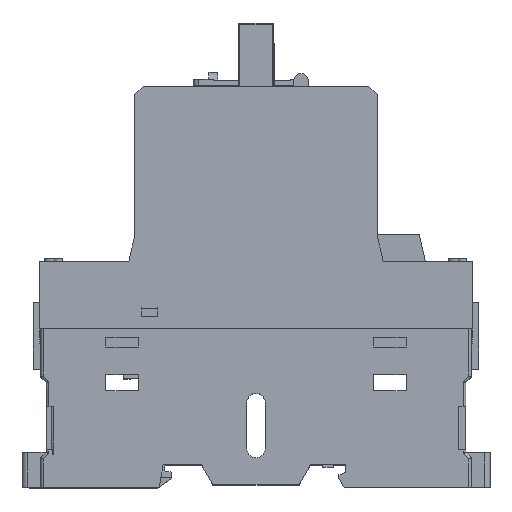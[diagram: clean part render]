
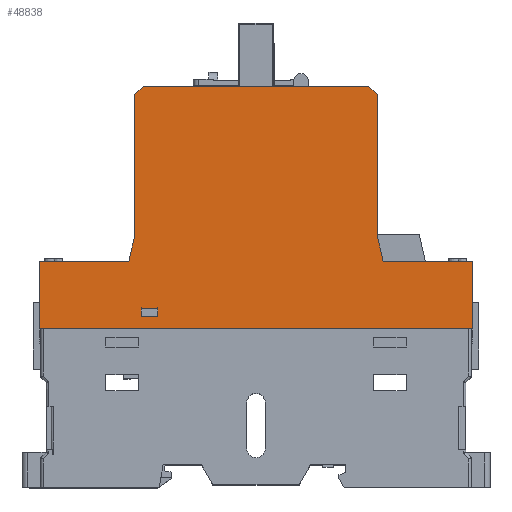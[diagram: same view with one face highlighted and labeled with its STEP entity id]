
A CAD part, top view. The second image highlights one B-rep face of the part: STEP entity #48838.
In plain terms, the highlighted planar face has unit normal (0, 0, 1).
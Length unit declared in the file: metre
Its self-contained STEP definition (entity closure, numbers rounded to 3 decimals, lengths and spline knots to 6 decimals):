
#41984=CARTESIAN_POINT('',(0.083455,0.015786,0.049028));
#41985=VERTEX_POINT('',#41984);
#41988=CARTESIAN_POINT('',(0.084605,0.010786,0.049028));
#41989=DIRECTION('',(-0.224,0.975,0.));
#41990=VECTOR('',#41989,1.);
#41991=LINE('',#41988,#41990);
#41992=CARTESIAN_POINT('',(0.084605,0.010786,0.049028));
#41993=VERTEX_POINT('',#41992);
#41994=EDGE_CURVE('',#41993,#41985,#41991,.T.);
#45402=CARTESIAN_POINT('',(0.101155,0.010786,0.049028));
#45403=VERTEX_POINT('',#45402);
#45406=CARTESIAN_POINT('',(0.101155,0.010786,0.049028));
#45407=DIRECTION('',(0.,-1.,0.));
#45408=VECTOR('',#45407,1.);
#45409=LINE('',#45406,#45408);
#45410=CARTESIAN_POINT('',(0.101155,-0.001714,0.049028));
#45411=VERTEX_POINT('',#45410);
#45412=EDGE_CURVE('',#45403,#45411,#45409,.T.);
#45705=CARTESIAN_POINT('',(0.020955,-0.001714,0.049028));
#45706=DIRECTION('',(1.,0.,0.));
#45707=VECTOR('',#45706,1.);
#45708=LINE('',#45705,#45707);
#45709=CARTESIAN_POINT('',(0.020755,-0.001714,0.049028));
#45710=VERTEX_POINT('',#45709);
#45711=EDGE_CURVE('',#45710,#45411,#45708,.T.);
#46602=CARTESIAN_POINT('',(0.020755,-0.001714,0.049028));
#46603=DIRECTION('',(0.,1.,0.));
#46604=VECTOR('',#46603,1.);
#46605=LINE('',#46602,#46604);
#46606=CARTESIAN_POINT('',(0.020755,0.010786,0.049028));
#46607=VERTEX_POINT('',#46606);
#46608=EDGE_CURVE('',#45710,#46607,#46605,.T.);
#48501=CARTESIAN_POINT('',(0.020955,0.010786,0.049028));
#48502=DIRECTION('',(-1.,0.,0.));
#48503=VECTOR('',#48502,1.);
#48504=LINE('',#48501,#48503);
#48505=CARTESIAN_POINT('',(0.037305,0.010786,0.049028));
#48506=VERTEX_POINT('',#48505);
#48507=EDGE_CURVE('',#48506,#46607,#48504,.T.);
#48653=CARTESIAN_POINT('',(0.037305,0.010786,0.049028));
#48654=DIRECTION('',(-0.224,-0.975,0.));
#48655=VECTOR('',#48654,1.);
#48656=LINE('',#48653,#48655);
#48657=CARTESIAN_POINT('',(0.038455,0.015786,0.049028));
#48658=VERTEX_POINT('',#48657);
#48659=EDGE_CURVE('',#48658,#48506,#48656,.T.);
#48683=CARTESIAN_POINT('',(0.038455,0.043286,0.049028));
#48684=DIRECTION('',(0.,-1.,0.));
#48685=VECTOR('',#48684,1.);
#48686=LINE('',#48683,#48685);
#48687=CARTESIAN_POINT('',(0.038455,0.041786,0.049028));
#48688=VERTEX_POINT('',#48687);
#48689=EDGE_CURVE('',#48688,#48658,#48686,.T.);
#48722=CARTESIAN_POINT('',(0.038455,0.041786,0.049028));
#48723=DIRECTION('',(0.707,0.707,0.));
#48724=VECTOR('',#48723,1.);
#48725=LINE('',#48722,#48724);
#48726=CARTESIAN_POINT('',(0.039955,0.043286,0.049028));
#48727=VERTEX_POINT('',#48726);
#48728=EDGE_CURVE('',#48688,#48727,#48725,.T.);
#48761=CARTESIAN_POINT('',(0.081955,0.043286,0.049028));
#48762=DIRECTION('',(0.707,-0.707,0.));
#48763=VECTOR('',#48762,1.);
#48764=LINE('',#48761,#48763);
#48765=CARTESIAN_POINT('',(0.081955,0.043286,0.049028));
#48766=VERTEX_POINT('',#48765);
#48767=CARTESIAN_POINT('',(0.083455,0.041786,0.049028));
#48768=VERTEX_POINT('',#48767);
#48769=EDGE_CURVE('',#48766,#48768,#48764,.T.);
#48804=CARTESIAN_POINT('',(0.020955,0.010786,0.049028));
#48805=DIRECTION('',(0.,0.,-1.));
#48806=DIRECTION('',(-1.,0.,0.));
#48807=AXIS2_PLACEMENT_3D('',#48804,#48805,#48806);
#48808=PLANE('',#48807);
#48809=CARTESIAN_POINT('',(0.083455,0.043286,0.049028));
#48810=DIRECTION('',(0.,1.,0.));
#48811=VECTOR('',#48810,1.);
#48812=LINE('',#48809,#48811);
#48813=EDGE_CURVE('',#41985,#48768,#48812,.T.);
#48814=ORIENTED_EDGE('',*,*,#48813,.T.);
#48815=ORIENTED_EDGE('',*,*,#48769,.F.);
#48816=CARTESIAN_POINT('',(0.038455,0.043286,0.049028));
#48817=DIRECTION('',(-1.,0.,0.));
#48818=VECTOR('',#48817,1.);
#48819=LINE('',#48816,#48818);
#48820=EDGE_CURVE('',#48766,#48727,#48819,.T.);
#48821=ORIENTED_EDGE('',*,*,#48820,.T.);
#48822=ORIENTED_EDGE('',*,*,#48728,.F.);
#48823=ORIENTED_EDGE('',*,*,#48689,.T.);
#48824=ORIENTED_EDGE('',*,*,#48659,.T.);
#48825=ORIENTED_EDGE('',*,*,#48507,.T.);
#48826=ORIENTED_EDGE('',*,*,#46608,.F.);
#48827=ORIENTED_EDGE('',*,*,#45711,.T.);
#48828=ORIENTED_EDGE('',*,*,#45412,.F.);
#48829=CARTESIAN_POINT('',(0.084605,0.010786,0.049028));
#48830=DIRECTION('',(-1.,0.,0.));
#48831=VECTOR('',#48830,1.);
#48832=LINE('',#48829,#48831);
#48833=EDGE_CURVE('',#45403,#41993,#48832,.T.);
#48834=ORIENTED_EDGE('',*,*,#48833,.T.);
#48835=ORIENTED_EDGE('',*,*,#41994,.T.);
#48836=EDGE_LOOP('',(#48814,#48815,#48821,#48822,#48823,#48824,#48825,#48826,#48827,#48828,#48834,#48835));
#48837=FACE_BOUND('',#48836,.T.);
#48838=ADVANCED_FACE('',(#48837),#48808,.F.);
